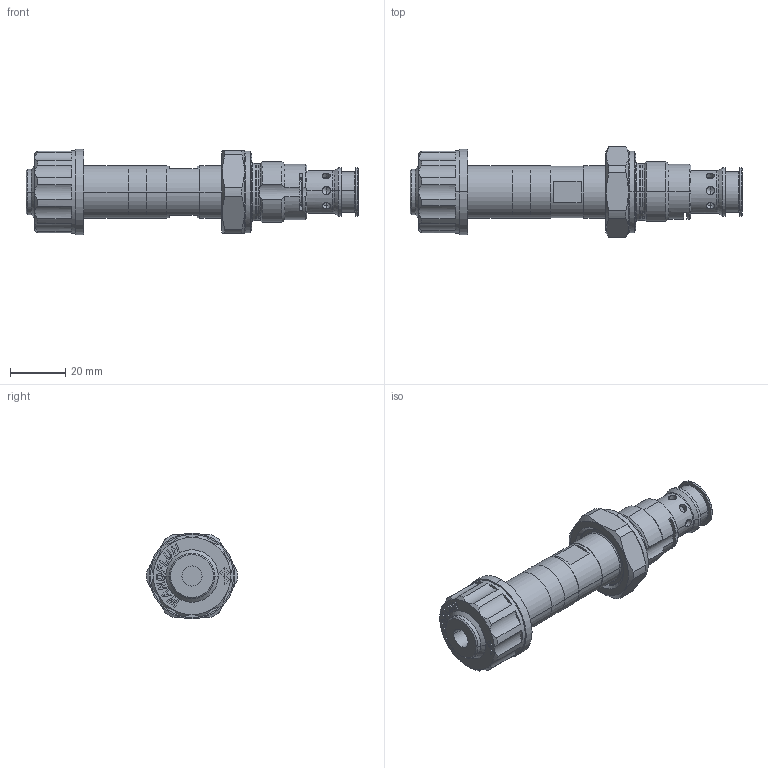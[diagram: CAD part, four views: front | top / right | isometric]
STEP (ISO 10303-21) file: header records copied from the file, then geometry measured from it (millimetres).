
FILE_DESCRIPTION (( 'STEP AP214' ), '1' );
FILE_NAME ('BVPPM22.STEP', '2014-03-19T09:29:50', ( '' ), ( '' ), 'SwSTEP 2.0', 'SolidWorks 2012', '' );
FILE_SCHEMA (( 'AUTOMOTIVE_DESIGN' ));
Length unit declared in the file: millimetre
Products named in the file (1): BVPPM22
Bounding box: 120.1 x 32.98 x 31 mm (x, y, z)
Volume: 42013.1 mm3; surface area: 19769.2 mm2
Topology: 6 solids, 6 shells, 474 faces, 1116 edges, 679 vertices
Faces by surface type: plane 172, cylinder 126, cone 97, torus 57, bspline 22
Entity records: 20296 total; most frequent: CARTESIAN_POINT 4228, DIRECTION 2286, ORIENTED_EDGE 2196, EDGE_CURVE 1098, AXIS2_PLACEMENT_3D 877, VERTEX_POINT 679, VECTOR 532, LINE 532
